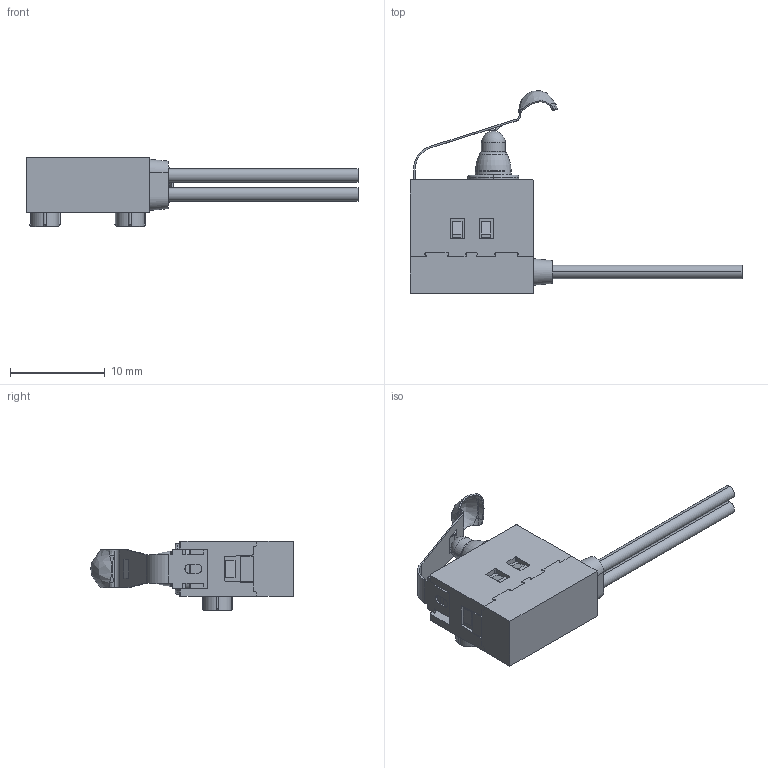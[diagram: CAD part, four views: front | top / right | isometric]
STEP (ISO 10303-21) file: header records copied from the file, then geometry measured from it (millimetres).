
FILE_DESCRIPTION (( 'STEP AP214' ), '1' );
FILE_NAME ('SPVQ351700.STEP', '2011-03-22T01:32:43', ( '' ), ( '' ), 'SwSTEP 2.0', 'SolidWorks 2007', '' );
FILE_SCHEMA (( 'AUTOMOTIVE_DESIGN' ));
Length unit declared in the file: millimetre
Products named in the file (1): SPVQ351700
Bounding box: 35 x 21.36 x 7.3 mm (x, y, z)
Volume: 1016 mm3; surface area: 1548.8 mm2
Topology: 1 solids, 1 shells, 416 faces, 1198 edges, 777 vertices
Faces by surface type: plane 240, cylinder 130, bspline 18, torus 18, cone 8, sphere 2
Entity records: 19073 total; most frequent: CARTESIAN_POINT 3542, ORIENTED_EDGE 2388, DIRECTION 2216, EDGE_CURVE 1194, VECTOR 810, LINE 810, VERTEX_POINT 775, AXIS2_PLACEMENT_3D 703
